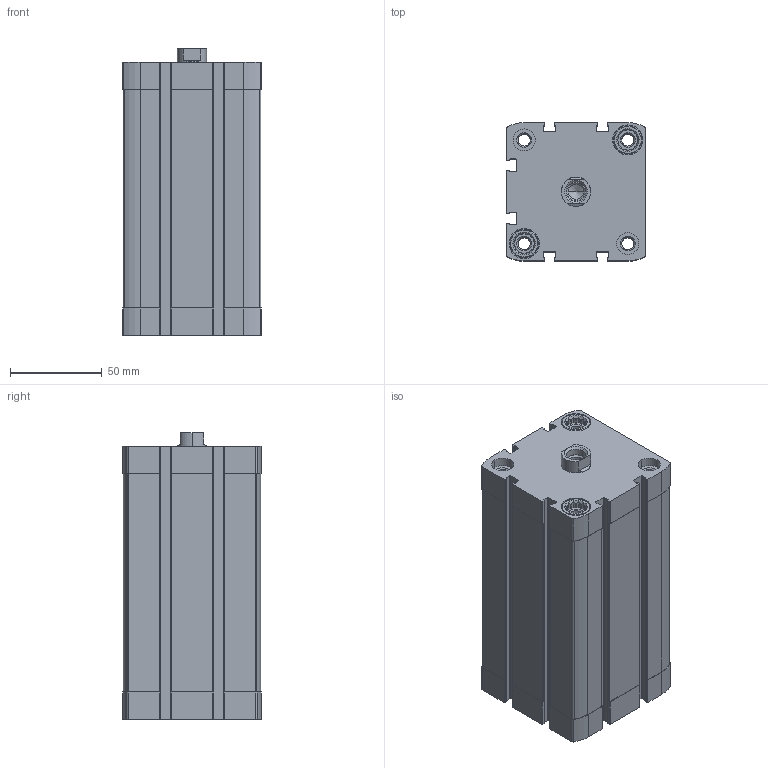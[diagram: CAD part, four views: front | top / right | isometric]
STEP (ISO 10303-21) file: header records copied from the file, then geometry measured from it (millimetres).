
FILE_DESCRIPTION (( 'STEP AP203' ), '1' );
FILE_NAME ('CCN63-100F.STEP', '2017-04-05T16:21:14', ( '' ), ( '' ), 'SwSTEP 2.0', 'SolidWorks 2016', '' );
FILE_SCHEMA (( 'CONFIG_CONTROL_DESIGN' ));
Length unit declared in the file: millimetre
Products named in the file (3): CCN-100_(KS); CCN63-100F; CCN-100---(Z)
Assembly tree (2 placements, depth 2):
  CCN63-100F
    CCN-100---(Z)
    CCN-100_(KS)
Bounding box: 75.5 x 75.5 x 156.5 mm (x, y, z)
Volume: 488388.6 mm3; surface area: 127940.2 mm2
Topology: 2 solids, 2 shells, 471 faces, 1274 edges, 837 vertices
Faces by surface type: plane 219, cylinder 210, cone 42
Entity records: 15309 total; most frequent: CARTESIAN_POINT 2879, DIRECTION 2596, ORIENTED_EDGE 2544, EDGE_CURVE 1272, AXIS2_PLACEMENT_3D 946, VERTEX_POINT 837, LINE 704, VECTOR 704
